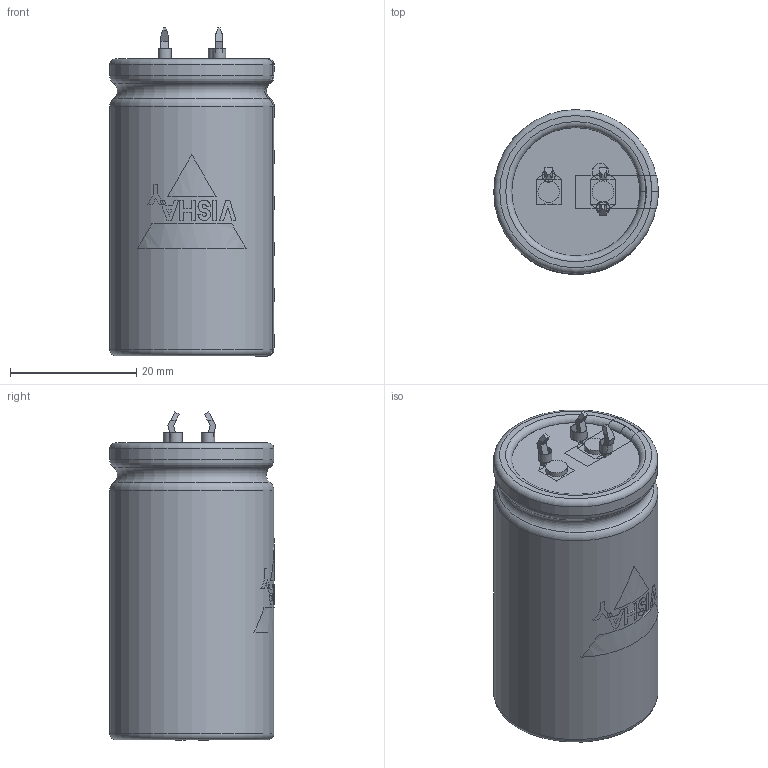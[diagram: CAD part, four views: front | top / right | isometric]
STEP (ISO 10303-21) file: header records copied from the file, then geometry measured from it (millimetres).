
FILE_DESCRIPTION(('FreeCAD Model'),'2;1');
FILE_NAME( 'C:/Users/Gebruiker/Documents/FreeCAD/SnapIn_25x45_3pin_4.0.step', '2020-11-12T21:09:45',('Author'),(''), 'Open CASCADE STEP processor 6.8','FreeCAD','Unknown');
FILE_SCHEMA(('AUTOMOTIVE_DESIGN_CC2 { 1 2 10303 214 -1 1 5 4 }'));
Length unit declared in the file: millimetre
Products named in the file (9): ASSEMBLY; TerminalPlus; Disc; BottomInsulation; Can3D; InkMinusBar; InkLogo; TerminalMinKP; PCBHolesKP
Assembly tree (8 placements, depth 2):
  ASSEMBLY
    TerminalPlus
    Disc
    BottomInsulation
    Can3D
    InkMinusBar
    InkLogo
    TerminalMinKP
    PCBHolesKP
Bounding box: 26.05 x 26.05 x 51.95 mm (x, y, z)
Volume: 27967.9 mm3; surface area: 11248.7 mm2
Topology: 16 solids, 16 shells, 219 faces, 547 edges, 356 vertices
Faces by surface type: plane 169, cylinder 32, torus 18
Full cylindrical faces by diameter (mm): 2 x2, 2.1 x2, 2.5 x1, 2.6 x1, 3.4 x2, 20.3 x1, 20.8 x2, 26 x2
Entity records: 22278 total; most frequent: CARTESIAN_POINT 10131, DIRECTION 1881, ORIENTED_EDGE 1094, PCURVE 1094, DEFINITIONAL_REPRESENTATION 1094, LINE 1058, VECTOR 1058, EDGE_CURVE 547
